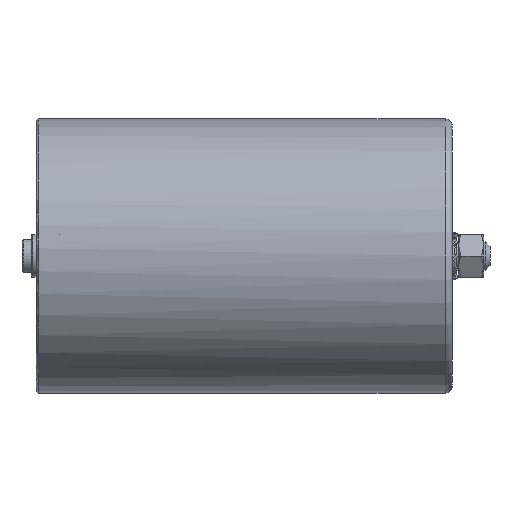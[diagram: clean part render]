
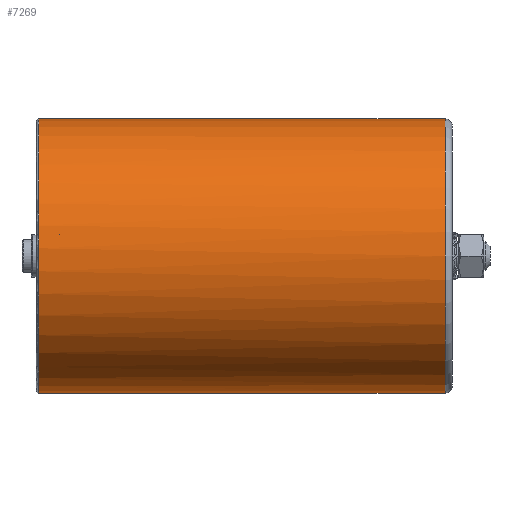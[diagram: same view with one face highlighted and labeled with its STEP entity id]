
A CAD part, left-side view. The second image highlights one B-rep face of the part: STEP entity #7269.
In plain terms, the highlighted cylindrical face has radius 58 mm (diameter 116 mm), a partial arc.
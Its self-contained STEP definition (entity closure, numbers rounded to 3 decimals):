
#127 = CARTESIAN_POINT ( 'NONE',  ( 0., 3., 58. ) ) ;
#212 = LINE ( 'NONE', #3150, #11688 ) ;
#289 = CIRCLE ( 'NONE', #5608, 58. ) ;
#872 = DIRECTION ( 'NONE',  ( 0., -1., 0. ) ) ;
#1032 = DIRECTION ( 'NONE',  ( -0.707, 0., -0.707 ) ) ;
#1070 = ORIENTED_EDGE ( 'NONE', *, *, #5861, .T. ) ;
#1171 = CARTESIAN_POINT ( 'NONE',  ( 0., 175., 0. ) ) ;
#1425 = DIRECTION ( 'NONE',  ( 0., 0., 1. ) ) ;
#1835 = CIRCLE ( 'NONE', #6732, 58. ) ;
#1850 = ORIENTED_EDGE ( 'NONE', *, *, #11699, .T. ) ;
#2544 = VERTEX_POINT ( 'NONE', #11022 ) ;
#3055 = CARTESIAN_POINT ( 'NONE',  ( 0., 175., -58. ) ) ;
#3150 = CARTESIAN_POINT ( 'NONE',  ( 0., 166., 58. ) ) ;
#3273 = ORIENTED_EDGE ( 'NONE', *, *, #8226, .T. ) ;
#3586 = VERTEX_POINT ( 'NONE', #5669 ) ;
#3610 = CARTESIAN_POINT ( 'NONE',  ( -41.012, 175., -41.012 ) ) ;
#3880 = CIRCLE ( 'NONE', #10602, 58. ) ;
#4012 = EDGE_CURVE ( 'NONE', #3586, #11359, #212, .T. ) ;
#4013 = LINE ( 'NONE', #7901, #6549 ) ;
#5406 = DIRECTION ( 'NONE',  ( 0., 1., 0. ) ) ;
#5608 = AXIS2_PLACEMENT_3D ( 'NONE', #9612, #872, #10637 ) ;
#5669 = CARTESIAN_POINT ( 'NONE',  ( 0., 175., 58. ) ) ;
#5861 = EDGE_CURVE ( 'NONE', #2544, #11359, #1835, .T. ) ;
#6549 = VECTOR ( 'NONE', #8913, 1000. ) ;
#6732 = AXIS2_PLACEMENT_3D ( 'NONE', #8256, #5406, #1425 ) ;
#7269 = ADVANCED_FACE ( 'NONE', ( #8750 ), #10804, .T. ) ;
#7814 = DIRECTION ( 'NONE',  ( 0., 0., -1. ) ) ;
#7901 = CARTESIAN_POINT ( 'NONE',  ( 0., 166., -58. ) ) ;
#8067 = DIRECTION ( 'NONE',  ( 0., -1., 0. ) ) ;
#8226 = EDGE_CURVE ( 'NONE', #10114, #2544, #4013, .T. ) ;
#8256 = CARTESIAN_POINT ( 'NONE',  ( 0., 3., 0. ) ) ;
#8296 = ORIENTED_EDGE ( 'NONE', *, *, #11994, .T. ) ;
#8500 = ORIENTED_EDGE ( 'NONE', *, *, #4012, .F. ) ;
#8694 = CARTESIAN_POINT ( 'NONE',  ( 0., 166., 0. ) ) ;
#8750 = FACE_OUTER_BOUND ( 'NONE', #9757, .T. ) ;
#8913 = DIRECTION ( 'NONE',  ( 0., -1., 0. ) ) ;
#9612 = CARTESIAN_POINT ( 'NONE',  ( 0., 175., 0. ) ) ;
#9757 = EDGE_LOOP ( 'NONE', ( #8500, #8296, #1850, #3273, #1070 ) ) ;
#10114 = VERTEX_POINT ( 'NONE', #3055 ) ;
#10602 = AXIS2_PLACEMENT_3D ( 'NONE', #1171, #8067, #1032 ) ;
#10630 = AXIS2_PLACEMENT_3D ( 'NONE', #8694, #10684, #7814 ) ;
#10637 = DIRECTION ( 'NONE',  ( -0.707, 0., -0.707 ) ) ;
#10684 = DIRECTION ( 'NONE',  ( 0., -1., 0. ) ) ;
#10804 = CYLINDRICAL_SURFACE ( 'NONE', #10630, 58. ) ;
#11022 = CARTESIAN_POINT ( 'NONE',  ( 0., 3., -58. ) ) ;
#11039 = VERTEX_POINT ( 'NONE', #3610 ) ;
#11359 = VERTEX_POINT ( 'NONE', #127 ) ;
#11688 = VECTOR ( 'NONE', #12627, 1000. ) ;
#11699 = EDGE_CURVE ( 'NONE', #11039, #10114, #289, .T. ) ;
#11994 = EDGE_CURVE ( 'NONE', #3586, #11039, #3880, .T. ) ;
#12627 = DIRECTION ( 'NONE',  ( 0., -1., 0. ) ) ;
